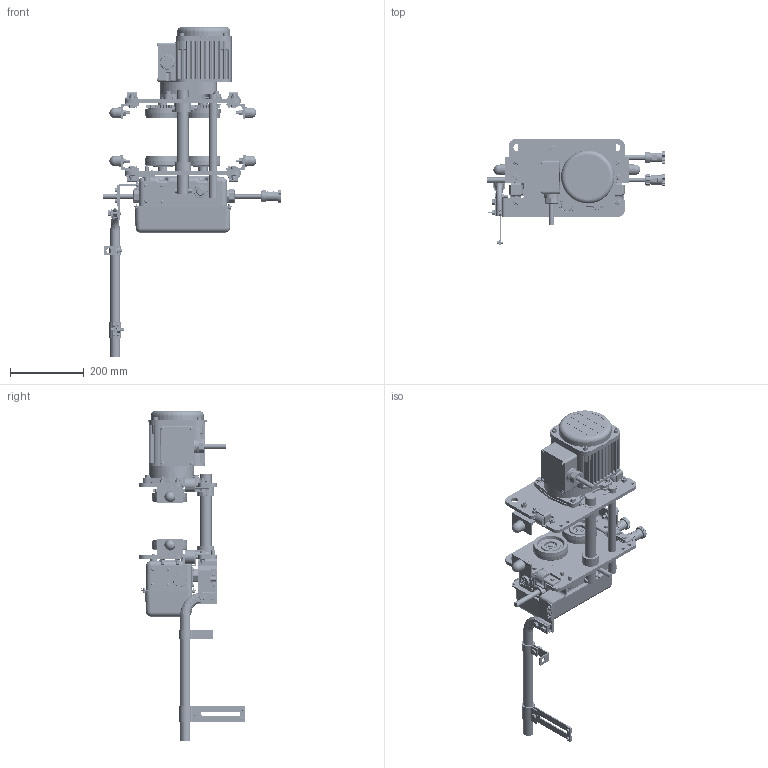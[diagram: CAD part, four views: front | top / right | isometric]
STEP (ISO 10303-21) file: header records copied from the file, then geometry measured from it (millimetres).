
FILE_DESCRIPTION (( 'STEP AP214' ), '1' );
FILE_NAME ('MR2001LD.STEP', '2026-08-06T15:11:43', ( '' ), ( '' ), 'SwSTEP 2.0', 'SolidWorks 2026', '' );
FILE_SCHEMA (( 'AUTOMOTIVE_DESIGN' ));
Length unit declared in the file: inch
Products named in the file (91): ES558003; basic internal retaining ring_am_B27.7M - 3BM1-42; MR1DS9631; MS527010; MR1DS1493; hex nut style 1_am_9093424; MS006010; KITO-WASHER; MR1DS1481; MR1DS9325; 9012513; ECP2304AD; MS104010; MSF115010_MSF115010; MR2DS2811; MR1DS9248; MR1DS1211; MR2SHM10S9A8; MR1DS9401_1 - 8 TON & 10 L TON; MR1DS9501; 9047115_9047115; MR1DS9491; M6SE010S9101; 16-4 (MR2); ECP5924AH; ECP5924AD1; single coil rectangular section spring washer_bsi_9012711; MS551010; split pin (metric) as_9009414-5; MR1DS1211_Reversed; MR2DS1768; MS554010; 16-6P (MR2); MR1DS9218; radial ball bearing_68_am_AFBMA 20.1 - 03-15 - Full,SI,NC,Full_68; MR1DS9493; MR1DS9324; MR1DS9203; ECP5924AC1; MS161010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
Assembly tree (217 placements, depth 5):
  MR2001LD
    MR1DS5201
      MR1DS9201
      MR1DS9203  x2
      M6FE010S9113
    MR1DS5202
      MR1DS9202
      MR1DS9203  x2
      M6FE010S9114
    MSF115010_MSF115010
    MR1DS9634  x4
    hex cap screw_am_9093330  x8
    single coil rectangular section spring washer_bsi_9012711  x20
    hex nut style 1_am_9093424  x16
    MR1DS9631  x4
    MS006010  x4
    MR1DS1211_Reversed  x2
      MR1DS1211
      MR1DS9218
    MR1DS1211  x2
      MR1DS1211
      MR1DS9218
    MS1101010  x2
      M6SE010S9101
      6302Z BEARING
      basic internal retaining ring_am_9047242
    hex cap screw_am_9093329  x4
    MS1102010  x2
      M6SE010S9102
      radial ball bearing_68_am_AFBMA 20.1 - 03-15 - Full,SI,NC,Full_68
      basic internal retaining ring_am_B27.7M - 3BM1-42
    MR1DS9131_MR1DS9131
    9009446_9009446  x2
    MS161010
    T6G156020
    9009432_9009432
    hexagon slotted nut low_1 small_jis_T3P154020
    split pin (metric) as_9009414-5
    9047115_9047115  x4
    MS104010  x4
    6077801
      MR1DS93112
      MR1DS9324
      MR1DS9325
      MR1DS1301
      90912134  x4
      MS554010  x4
    9012513  x4
    hex cap screw_am_9093328  x4
    MR1DS9248
    70130XX_7013001
      MR1DS9411
      MR1DS9401_1 - 8 TON & 10 L TON
      MR1DS9421
      MS554010  x12
      MR2DS2811
        ECP5924AH
        MS527010
        MR2DI1811
        ES558003  x4
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Bounding box: 483.84 x 285.45 x 892.08 mm (x, y, z)
Volume: 5557462.2 mm3; surface area: 1825300.8 mm2
Topology: 244 solids, 252 shells, 8208 faces, 21410 edges, 13947 vertices
Faces by surface type: plane 3990, cylinder 2424, cone 926, torus 456, bspline 388, sphere 24
Entity records: 188507 total; most frequent: CARTESIAN_POINT 69127, ORIENTED_EDGE 24592, DIRECTION 23053, EDGE_CURVE 12298, AXIS2_PLACEMENT_3D 8383, VERTEX_POINT 8191, VECTOR 6287, LINE 6287
